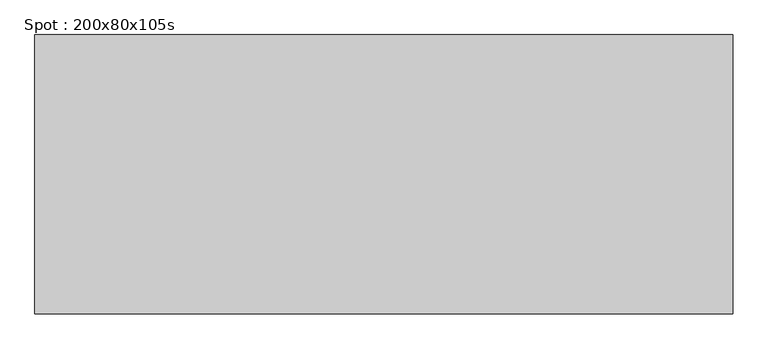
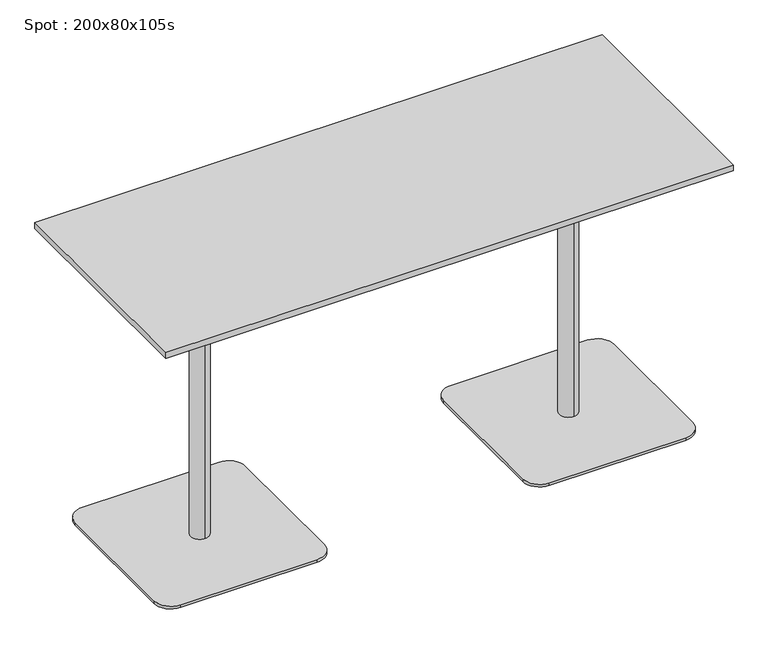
"""IFC4 building model written with IfcOpenShell, lengths in millimetres: furniture geometry, Spot : 200x80x105s."""

import ifcopenshell
import ifcopenshell.guid

model = None  # the IFC model being written
_history = None  # IfcOwnerHistory: only IFC2X3 demands one
_inside = {}  # id of a spatial element -> (the spatial element, [elements in it])
_under = {}  # id of a project, library or spatial element -> (it, [spatial elements below it])
_declared = {}  # id of a project -> (the project, [libraries it declares])
_typed = {}  # id of a type object -> (the type object, [elements of that type])
_made_of = {}  # id of a material, layer set ... -> (it, [elements and type objects made of it])


def new_model(schema):
    """Start an empty IFC model of exactly this schema.

    Asked for "IFC4X3", IfcOpenShell would pick the latest addendum, in which some entities
    have other attributes; the version numbers below select the first issue.
    IFC2X3 requires an IfcOwnerHistory on every rooted entity: one is made here for all.
    """
    global model, _history
    if schema == "IFC4X3":
        model = ifcopenshell.file(schema_version=(4, 3, 0, 0))
    else:
        model = ifcopenshell.file(schema=schema)
    _inside.clear()
    _under.clear()
    _declared.clear()
    _typed.clear()
    _made_of.clear()
    _history = None
    if model.schema == "IFC2X3":
        org = make("IfcOrganization", Name="unknown")
        user = make(
            "IfcPersonAndOrganization",
            ThePerson=make("IfcPerson", FamilyName="unknown"),
            TheOrganization=org,
        )
        app = make(
            "IfcApplication",
            ApplicationDeveloper=org,
            Version="unknown",
            ApplicationFullName="unknown",
            ApplicationIdentifier="unknown",
        )
        _history = make(
            "IfcOwnerHistory",
            OwningUser=user,
            OwningApplication=app,
            ChangeAction="ADDED",
            CreationDate=0,
        )
    return model


def make(cls, **values):
    """One entity of the class cls with the attributes given. An attribute that is None is left unset."""
    return model.create_entity(
        cls, **{name: value for name, value in values.items() if value is not None}
    )


def rooted(cls, **values):
    """An entity with a GlobalId (a new one), such as an element, a storey or a relation."""
    return make(cls, GlobalId=ifcopenshell.guid.new(), OwnerHistory=_history, **values)


def si_unit(unit_type, name, prefix=None):
    """IfcSIUnit, for example si_unit("LENGTHUNIT", "METRE", prefix="MILLI")."""
    return make("IfcSIUnit", UnitType=unit_type, Prefix=prefix, Name=name)


def assignment(units):
    """IfcUnitAssignment: the units of a project."""
    return None if units is None else make("IfcUnitAssignment", Units=units)


def point(xyz):
    """IfcCartesianPoint."""
    return None if xyz is None else make("IfcCartesianPoint", Coordinates=xyz)


def direction(xyz):
    """IfcDirection."""
    return None if xyz is None else make("IfcDirection", DirectionRatios=xyz)


def frame(location, z_axis=None, x_axis=None):
    """IfcAxis2Placement3D, a coordinate frame: its origin and axes. An axis left out is left unset."""
    return make(
        "IfcAxis2Placement3D",
        Location=point(location),
        Axis=direction(z_axis),
        RefDirection=direction(x_axis),
    )


def frame_2d(location, x_axis=None):
    """IfcAxis2Placement2D, a coordinate frame in the plane: its origin and x axis."""
    return make(
        "IfcAxis2Placement2D", Location=point(location), RefDirection=direction(x_axis)
    )


def origin():
    """The frame at (0, 0, 0) with its axes left unset."""
    return frame((0.0, 0.0, 0.0))


def origin_with_axes():
    """The frame at (0, 0, 0) with the z axis (0, 0, 1) and the x axis (1, 0, 0) written out."""
    return frame((0.0, 0.0, 0.0), z_axis=(0.0, 0.0, 1.0), x_axis=(1.0, 0.0, 0.0))


def place(relative_to, where):
    """IfcLocalPlacement: puts the frame where relative to a parent placement (None: the world)."""
    return make(
        "IfcLocalPlacement", PlacementRelTo=relative_to, RelativePlacement=where
    )


def context(
    kind, dimensions, precision=None, world=None, true_north=None, identifier=None
):
    """IfcGeometricRepresentationContext, for example the 3D "Model" context."""
    return make(
        "IfcGeometricRepresentationContext",
        ContextIdentifier=identifier,
        ContextType=kind,
        CoordinateSpaceDimension=dimensions,
        Precision=precision,
        WorldCoordinateSystem=world,
        TrueNorth=true_north,
    )


def project(units=None, contexts=None):
    """IfcProject with its units and contexts."""
    return rooted(
        "IfcProject",
        Name="project",
        RepresentationContexts=contexts,
        UnitsInContext=assignment(units),
    )


def spatial(cls, under=None, at=None, **own):
    """A site, building, storey or space (cls), placed at a placement, below another one or the project."""
    s = rooted(cls, ObjectPlacement=at, **own)
    if under is not None:
        _under.setdefault(under.id(), (under, []))[1].append(s)
    return s


def polyline(points):
    """IfcPolyline through the points."""
    return make("IfcPolyline", Points=[point(p) for p in points])


def circle_curve(where, radius):
    """IfcCircle in the frame where."""
    return make("IfcCircle", Position=where, Radius=radius)


def trimmed(basis, trim1, trim2, sense, master):
    """IfcTrimmedCurve: the piece of a basis curve between two trims."""
    return make(
        "IfcTrimmedCurve",
        BasisCurve=basis,
        Trim1=trim1,
        Trim2=trim2,
        SenseAgreement=sense,
        MasterRepresentation=master,
    )


def segment(curve, same_sense, transition):
    """IfcCompositeCurveSegment."""
    return make(
        "IfcCompositeCurveSegment",
        Transition=transition,
        SameSense=same_sense,
        ParentCurve=curve,
    )


def composite_curve(segments, self_intersect=None):
    """IfcCompositeCurve: segments joined end to end."""
    return make("IfcCompositeCurve", Segments=segments, SelfIntersect=self_intersect)


def outline(outer, holes=None, kind="AREA"):
    """IfcArbitraryClosedProfileDef: a profile drawn as a closed curve; with holes, ...WithVoids."""
    if holes is None:
        return make("IfcArbitraryClosedProfileDef", ProfileType=kind, OuterCurve=outer)
    return make(
        "IfcArbitraryProfileDefWithVoids",
        ProfileType=kind,
        OuterCurve=outer,
        InnerCurves=holes,
    )


def extrude(swept, where, along, depth):
    """IfcExtrudedAreaSolid: the profile swept, set in the frame where, extruded along a direction by depth."""
    return make(
        "IfcExtrudedAreaSolid",
        SweptArea=swept,
        Position=where,
        ExtrudedDirection=direction(along),
        Depth=depth,
    )


def shape(context_of_items, identifier, shape_type, items):
    """IfcShapeRepresentation: the items that make up one representation, for example the "Body"."""
    return make(
        "IfcShapeRepresentation",
        ContextOfItems=context_of_items,
        RepresentationIdentifier=identifier,
        RepresentationType=shape_type,
        Items=items,
    )


def source(mapping_origin, context_of_items, identifier, shape_type, items):
    """IfcRepresentationMap: a shape defined once, which mapped items show again and again."""
    return make(
        "IfcRepresentationMap",
        MappingOrigin=mapping_origin,
        MappedRepresentation=shape(context_of_items, identifier, shape_type, items),
    )


def transform(
    local_origin,
    x_axis=None,
    y_axis=None,
    z_axis=None,
    scale=None,
    scale2=None,
    scale3=None,
    uniform=True,
):
    """IfcCartesianTransformationOperator3D, or its non-uniform kind. x_axis, y_axis, z_axis: its Axis1, 2, 3."""
    if uniform:
        return make(
            "IfcCartesianTransformationOperator3D",
            Axis1=direction(x_axis),
            Axis2=direction(y_axis),
            LocalOrigin=point(local_origin),
            Scale=scale,
            Axis3=direction(z_axis),
        )
    return make(
        "IfcCartesianTransformationOperator3DnonUniform",
        Axis1=direction(x_axis),
        Axis2=direction(y_axis),
        LocalOrigin=point(local_origin),
        Scale=scale,
        Axis3=direction(z_axis),
        Scale2=scale2,
        Scale3=scale3,
    )


def mapped(mapping_source, mapping_target):
    """IfcMappedItem: shows the shape of a source again, moved by a transform."""
    return make(
        "IfcMappedItem", MappingSource=mapping_source, MappingTarget=mapping_target
    )


def made_of(thing, what):
    """Note that an element or type object is made of a material, layer set ...; save() writes the relation."""
    if what is not None:
        _made_of.setdefault(what.id(), (what, []))[1].append(thing)
    return thing


def element(
    cls,
    number,
    at=None,
    inside=None,
    cuts=None,
    type_object=None,
    material=None,
    context=None,
    identifier="Body",
    shape_type=None,
    held_by="IfcProductDefinitionShape",
    body=None,
    shapes=None,
    **own,
):
    """One element of the class cls, such as IfcWall. Its Tag is "e" and its number.

    at: its placement. inside: the storey or other place that contains it. cuts: it is an
    opening in that element (IfcRelVoidsElement). A single representation is given by context,
    identifier, shape_type and body (its items); several are given by shapes. held_by: the class
    of the entity that holds the representations. save() writes the other relations.
    """
    e = rooted(cls, Tag="e%d" % number, ObjectPlacement=at, **own)
    if body is not None:
        shapes = [shape(context, identifier, shape_type, body)]
    if shapes is not None:
        e.Representation = make(held_by, Representations=shapes)
    if inside is not None:
        _inside.setdefault(inside.id(), (inside, []))[1].append(e)
    if cuts is not None:
        rooted(
            "IfcRelVoidsElement", RelatingBuildingElement=cuts, RelatedOpeningElement=e
        )
    if type_object is not None:
        _typed.setdefault(type_object.id(), (type_object, []))[1].append(e)
    return made_of(e, material)


def aggregate(whole, parts):
    """IfcRelAggregates: a whole, such as a stair, and the parts it consists of."""
    return rooted("IfcRelAggregates", RelatingObject=whole, RelatedObjects=parts)


def save(model, path):
    """Write the relations noted so far, then the file.

    IfcRelAggregates (storeys below a building ...), IfcRelContainedInSpatialStructure (elements
    in a storey), IfcRelDefinesByType, IfcRelAssociatesMaterial and IfcRelDeclares: one each for
    every whole, place, type object, material and project.
    """
    for whole, parts in _under.values():
        aggregate(whole, parts)
    for where, things in _inside.values():
        rooted(
            "IfcRelContainedInSpatialStructure",
            RelatedElements=things,
            RelatingStructure=where,
        )
    for kind, things in _typed.values():
        rooted("IfcRelDefinesByType", RelatedObjects=things, RelatingType=kind)
    for what, things in _made_of.values():
        rooted("IfcRelAssociatesMaterial", RelatedObjects=things, RelatingMaterial=what)
    for by, libraries in _declared.values():
        rooted("IfcRelDeclares", RelatingContext=by, RelatedDefinitions=libraries)
    model.write(path)


def plane_surface(at):
    """IfcPlane: the flat surface through the origin of the frame at, square to its z axis."""
    return make("IfcPlane", Position=at)


def cylinder_surface(at, radius):
    """IfcCylindricalSurface: all points at the distance radius from the z axis of the frame at."""
    return make("IfcCylindricalSurface", Position=at, Radius=radius)


def revolved_surface(curve, axis_point, axis_direction):
    """IfcSurfaceOfRevolution: the curve turned about the line through axis_point along axis_direction."""
    return make(
        "IfcSurfaceOfRevolution",
        SweptCurve=make("IfcArbitraryOpenProfileDef", ProfileType="CURVE", Curve=curve),
        AxisPosition=make("IfcAxis1Placement", Location=point(axis_point), Axis=direction(axis_direction)),
    )


def advanced_brep(points, edges, surfaces, faces):
    """IfcAdvancedBrep: a solid bounded by faces that lie on surfaces and meet in shared edges.

    An edge is (start, end): straight between two places in points (the first is 0);
    or (start, end, curve); or (start, end, curve, False) where it runs against its curve.
    A face is (place in surfaces, loops), or (place, loops, False) where it looks against
    its surface's normal. A loop lists edges by number (the first is 1), with a minus sign
    where the edge is run from its end to its start. The first loop is the outer one.
    """
    corners = [point(p) for p in points]
    vertices = [make("IfcVertexPoint", VertexGeometry=c) for c in corners]
    made = []
    for start, end, *more in edges:
        made.append(
            make(
                "IfcEdgeCurve",
                EdgeStart=vertices[start],
                EdgeEnd=vertices[end],
                EdgeGeometry=more[0] if more else make("IfcPolyline", Points=[corners[start], corners[end]]),
                SameSense=more[1] if len(more) > 1 else True,
            )
        )
    hull = []
    for where, loops, *sense in faces:
        bounds = []
        for j, loop in enumerate(loops):
            ring = [make("IfcOrientedEdge", EdgeElement=made[abs(k) - 1], Orientation=k > 0) for k in loop]
            bounds.append(
                make(
                    "IfcFaceOuterBound" if j == 0 else "IfcFaceBound",
                    Bound=make("IfcEdgeLoop", EdgeList=ring),
                    Orientation=True,
                )
            )
        hull.append(make("IfcAdvancedFace", Bounds=bounds, FaceSurface=surfaces[where], SameSense=sense[0] if sense else True))
    return make("IfcAdvancedBrep", Outer=make("IfcClosedShell", CfsFaces=hull))


def spot_200x80x105s_75aef81f(model_context):
    return source(origin(), model_context, "Body", "SolidModel", [
        extrude(outline(polyline([(1000.0, 400.0), (1000.0, -400.0), (-1000.0, -400.0), (-1000.0, 400.0), (1000.0, 400.0)])), frame((0.0, 0.0, 1028.0), z_axis=(0.0, 0.0, 1.0), x_axis=(1.0, 0.0, 0.0)), (0.0, 0.0, 1.0), 22.0),
        extrude(outline(composite_curve([segment(trimmed(circle_curve(frame_2d((-410.0, 240.0)), 60.0), [point((-410.0, 300.0))], [point((-350.0, 240.0))], False, "CARTESIAN"), True, "CONTINUOUS"), segment(polyline([(-350.0, 240.0), (-350.0, -240.0)]), True, "CONTINUOUS"), segment(trimmed(circle_curve(frame_2d((-410.0, -240.0)), 60.0), [point((-350.0, -240.0))], [point((-410.0, -300.0))], False, "CARTESIAN"), True, "CONTINUOUS"), segment(polyline([(-410.0, -300.0), (-890.0, -300.0)]), True, "CONTINUOUS"), segment(trimmed(circle_curve(frame_2d((-890.0, -240.0)), 60.0), [point((-890.0, -300.0))], [point((-950.0, -240.0))], False, "CARTESIAN"), True, "CONTINUOUS"), segment(polyline([(-950.0, -240.0), (-950.0, 240.0)]), True, "CONTINUOUS"), segment(trimmed(circle_curve(frame_2d((-890.0, 240.0)), 60.0), [point((-950.0, 240.0))], [point((-890.0, 300.0))], False, "CARTESIAN"), True, "CONTINUOUS"), segment(polyline([(-890.0, 300.0), (-410.0, 300.0)]), True, "CONTINUOUS")], self_intersect=False)), origin_with_axes(), (0.0, 0.0, 1.0), 10.0),
        advanced_brep(
        [(-650.0, 32.0, 10.0), (-650.0, -32.0, 10.0), (-650.0, -32.0, 997.406916), (-650.0, 32.0, 997.406916), (-650.0, 0.0, 10.0), (-650.0, 150.0, 1028.0), (-650.0, -150.0, 1028.0), (-650.0, 0.0, 1028.0), (-650.0, 150.0, 1016.7213673), (-650.0, -150.0, 1016.7213673)],
        [
            (0, 1, circle_curve(frame((-650.0, 0.0, 10.0), z_axis=(0.0, 0.0, 1.0), x_axis=(0.0, -1.0, 0.0)), 32.0)),
            (1, 2),
            (2, 3, circle_curve(frame((-650.0, 0.0, 997.406916), z_axis=(0.0, 0.0, -1.0), x_axis=(0.0, -1.0, 0.0)), 32.0)),
            (3, 0),
            (1, 0, circle_curve(frame((-650.0, 0.0, 10.0), z_axis=(0.0, 0.0, 1.0), x_axis=(0.0, -1.0, 0.0)), 32.0)),
            (3, 2, circle_curve(frame((-650.0, 0.0, 997.406916), z_axis=(0.0, 0.0, -1.0), x_axis=(0.0, -1.0, 0.0)), 32.0)),
            (4, 1),
            (0, 4),
            (5, 6, circle_curve(frame((-650.0, 0.0, 1028.0), z_axis=(0.0, 0.0, 1.0), x_axis=(0.0, -1.0, 0.0)), 150.0)),
            (6, 7),
            (7, 5),
            (6, 5, circle_curve(frame((-650.0, 0.0, 1028.0), z_axis=(0.0, 0.0, 1.0), x_axis=(0.0, -1.0, 0.0)), 150.0)),
            (8, 9, circle_curve(frame((-650.0, 0.0, 1016.7213673), z_axis=(0.0, 0.0, 1.0), x_axis=(0.0, -1.0, 0.0)), 150.0)),
            (9, 6),
            (5, 8),
            (9, 8, circle_curve(frame((-650.0, 0.0, 1016.7213673), z_axis=(0.0, 0.0, 1.0), x_axis=(0.0, -1.0, 0.0)), 150.0)),
            (2, 9),
            (8, 3),
        ],
        [
            cylinder_surface(frame((-650.0, 0.0, 1390.0), z_axis=(0.0, 0.0, -1.0), x_axis=(0.0, -1.0, 0.0)), 32.0),
            plane_surface(frame((-650.0, 0.0, 10.0), z_axis=(0.0, 0.0, -1.0), x_axis=(0.0, -1.0, 0.0))),
            plane_surface(frame((-650.0, 0.0, 1028.0), z_axis=(0.0, 0.0, 1.0), x_axis=(0.0, -1.0, 0.0))),
            cylinder_surface(frame((-650.0, 0.0, 1390.0), z_axis=(0.0, 0.0, -1.0), x_axis=(0.0, -1.0, 0.0)), 150.0),
            revolved_surface(polyline([(-650.0, -150.0, 1016.7213673), (-650.0, -32.0, 997.406916)]), (-650.0, 0.0, 1390.0), (0.0, 0.0, -1.0)),
        ],
        [
            (0, [[1, 2, 3, 4]]),
            (0, [[5, -4, 6, -2]]),
            (1, [[7, -1, 8]]),
            (1, [[-8, -5, -7]]),
            (2, [[9, 10, 11]]),
            (2, [[12, -11, -10]]),
            (3, [[13, 14, -9, 15]]),
            (3, [[16, -15, -12, -14]]),
            (4, [[-3, 17, -13, 18]]),
            (4, [[-6, -18, -16, -17]]),
        ],
    ),
        extrude(outline(polyline([(-650.0, 0.0), (-670.0, 0.0), (-670.0, 20.0), (-650.0, 20.0), (-650.0, 0.0)])), origin_with_axes(), (0.0, 0.0, 1.0), 10.0),
        extrude(outline(composite_curve([segment(trimmed(circle_curve(frame_2d((890.0, 240.0)), 60.0), [point((890.0, 300.0))], [point((950.0, 240.0))], False, "CARTESIAN"), True, "CONTINUOUS"), segment(polyline([(950.0, 240.0), (950.0, -240.0)]), True, "CONTINUOUS"), segment(trimmed(circle_curve(frame_2d((890.0, -240.0)), 60.0), [point((950.0, -240.0))], [point((890.0, -300.0))], False, "CARTESIAN"), True, "CONTINUOUS"), segment(polyline([(890.0, -300.0), (410.0, -300.0)]), True, "CONTINUOUS"), segment(trimmed(circle_curve(frame_2d((410.0, -240.0)), 60.0), [point((410.0, -300.0))], [point((350.0, -240.0))], False, "CARTESIAN"), True, "CONTINUOUS"), segment(polyline([(350.0, -240.0), (350.0, 240.0)]), True, "CONTINUOUS"), segment(trimmed(circle_curve(frame_2d((410.0, 240.0)), 60.0), [point((350.0, 240.0))], [point((410.0, 300.0))], False, "CARTESIAN"), True, "CONTINUOUS"), segment(polyline([(410.0, 300.0), (890.0, 300.0)]), True, "CONTINUOUS")], self_intersect=False)), origin_with_axes(), (0.0, 0.0, 1.0), 10.0),
        advanced_brep(
        [(650.0, 32.0, 10.0), (650.0, -32.0, 10.0), (650.0, -32.0, 997.406916), (650.0, 32.0, 997.406916), (650.0, 0.0, 10.0), (650.0, 150.0, 1028.0), (650.0, -150.0, 1028.0), (650.0, 0.0, 1028.0), (650.0, 150.0, 1016.7213673), (650.0, -150.0, 1016.7213673)],
        [
            (0, 1, circle_curve(frame((650.0, 0.0, 10.0), z_axis=(0.0, 0.0, 1.0), x_axis=(0.0, -1.0, 0.0)), 32.0)),
            (1, 2),
            (2, 3, circle_curve(frame((650.0, 0.0, 997.406916), z_axis=(0.0, 0.0, -1.0), x_axis=(0.0, -1.0, 0.0)), 32.0)),
            (3, 0),
            (1, 0, circle_curve(frame((650.0, 0.0, 10.0), z_axis=(0.0, 0.0, 1.0), x_axis=(0.0, -1.0, 0.0)), 32.0)),
            (3, 2, circle_curve(frame((650.0, 0.0, 997.406916), z_axis=(0.0, 0.0, -1.0), x_axis=(0.0, -1.0, 0.0)), 32.0)),
            (4, 1),
            (0, 4),
            (5, 6, circle_curve(frame((650.0, 0.0, 1028.0), z_axis=(0.0, 0.0, 1.0), x_axis=(0.0, -1.0, 0.0)), 150.0)),
            (6, 7),
            (7, 5),
            (6, 5, circle_curve(frame((650.0, 0.0, 1028.0), z_axis=(0.0, 0.0, 1.0), x_axis=(0.0, -1.0, 0.0)), 150.0)),
            (8, 9, circle_curve(frame((650.0, 0.0, 1016.7213673), z_axis=(0.0, 0.0, 1.0), x_axis=(0.0, -1.0, 0.0)), 150.0)),
            (9, 6),
            (5, 8),
            (9, 8, circle_curve(frame((650.0, 0.0, 1016.7213673), z_axis=(0.0, 0.0, 1.0), x_axis=(0.0, -1.0, 0.0)), 150.0)),
            (2, 9),
            (8, 3),
        ],
        [
            cylinder_surface(frame((650.0, 0.0, 1390.0), z_axis=(0.0, 0.0, -1.0), x_axis=(0.0, -1.0, 0.0)), 32.0),
            plane_surface(frame((650.0, 0.0, 10.0), z_axis=(0.0, 0.0, -1.0), x_axis=(0.0, -1.0, 0.0))),
            plane_surface(frame((650.0, 0.0, 1028.0), z_axis=(0.0, 0.0, 1.0), x_axis=(0.0, -1.0, 0.0))),
            cylinder_surface(frame((650.0, 0.0, 1390.0), z_axis=(0.0, 0.0, -1.0), x_axis=(0.0, -1.0, 0.0)), 150.0),
            revolved_surface(polyline([(650.0, -150.0, 1016.7213673), (650.0, -32.0, 997.406916)]), (650.0, 0.0, 1390.0), (0.0, 0.0, -1.0)),
        ],
        [
            (0, [[1, 2, 3, 4]]),
            (0, [[5, -4, 6, -2]]),
            (1, [[7, -1, 8]]),
            (1, [[-8, -5, -7]]),
            (2, [[9, 10, 11]]),
            (2, [[12, -11, -10]]),
            (3, [[13, 14, -9, 15]]),
            (3, [[16, -15, -12, -14]]),
            (4, [[-3, 17, -13, 18]]),
            (4, [[-6, -18, -16, -17]]),
        ],
    ),
        extrude(outline(polyline([(650.0, 0.0), (630.0, 0.0), (630.0, 20.0), (650.0, 20.0), (650.0, 0.0)])), origin_with_axes(), (0.0, 0.0, 1.0), 10.0),
    ])


if __name__ == "__main__":
    model = new_model("IFC4")
    model_context = context("Model", 3, world=origin())
    ifc_project = project(units=[si_unit("LENGTHUNIT", "METRE", prefix="MILLI")], contexts=[model_context])
    site = spatial("IfcSite", under=ifc_project)
    building = spatial("IfcBuilding", under=site)
    placement = place(None, origin())
    spot_200x80x105s_shape = spot_200x80x105s_75aef81f(model_context)
    element("IfcFurniture", 1, ObjectType="Spot : 200x80x105s", at=placement, inside=building, context=model_context, shape_type="MappedRepresentation", body=[
        mapped(spot_200x80x105s_shape, transform((0.0, 0.0, 0.0), x_axis=(1.0, 0.0, 0.0), y_axis=(0.0, 1.0, 0.0), z_axis=(0.0, 0.0, 1.0))),
    ])
    save(model, "model.ifc")
